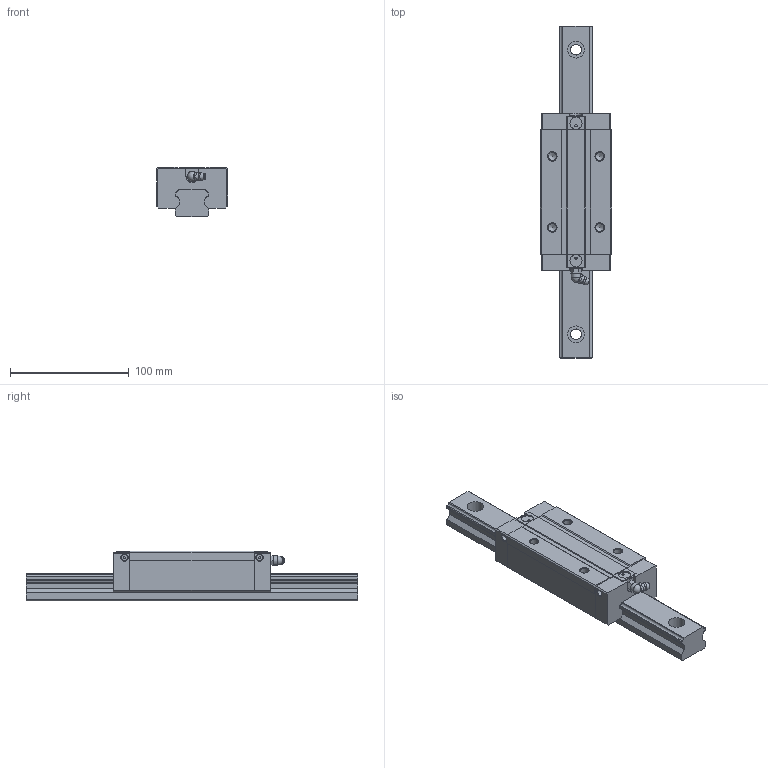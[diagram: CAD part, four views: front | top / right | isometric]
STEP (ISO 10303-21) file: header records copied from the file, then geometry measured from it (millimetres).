
FILE_DESCRIPTION(/* description */ (''),/* implementation_level */ '2;1');
FILE_NAME(/* name */ 'SME30-LSB',/* time_stamp */ '2008-10-06T10:26:18+08:00',/* author */ (''),/* organization */ (''),/* preprocessor_version */ 'ST-DEVELOPER v11',/* originating_system */ 'UGS - NX 5.0',/* authorisation */ '');
FILE_SCHEMA (('AUTOMOTIVE_DESIGN { 1 0 10303 214 1 1 1 1 }'));
Length unit declared in the file: millimetre
Products named in the file (1): jillBD1Calla
Bounding box: 60 x 280 x 42 mm (x, y, z)
Volume: 370225.5 mm3; surface area: 68070.3 mm2
Topology: 3 solids, 3 shells, 187 faces, 499 edges, 334 vertices
Faces by surface type: plane 117, cylinder 47, cone 13, torus 7, sphere 2, bspline 1
Full cylindrical faces by diameter (mm): 1.5 x4, 2 x2, 5.2 x4, 6.8 x4, 8 x1, 9 x4, 10.2 x2, 14 x4
Entity records: 5939 total; most frequent: CARTESIAN_POINT 1204, DIRECTION 890, ORIENTED_EDGE 886, EDGE_CURVE 443, VERTEX_POINT 324, AXIS2_PLACEMENT_3D 306, LINE 278, VECTOR 278
